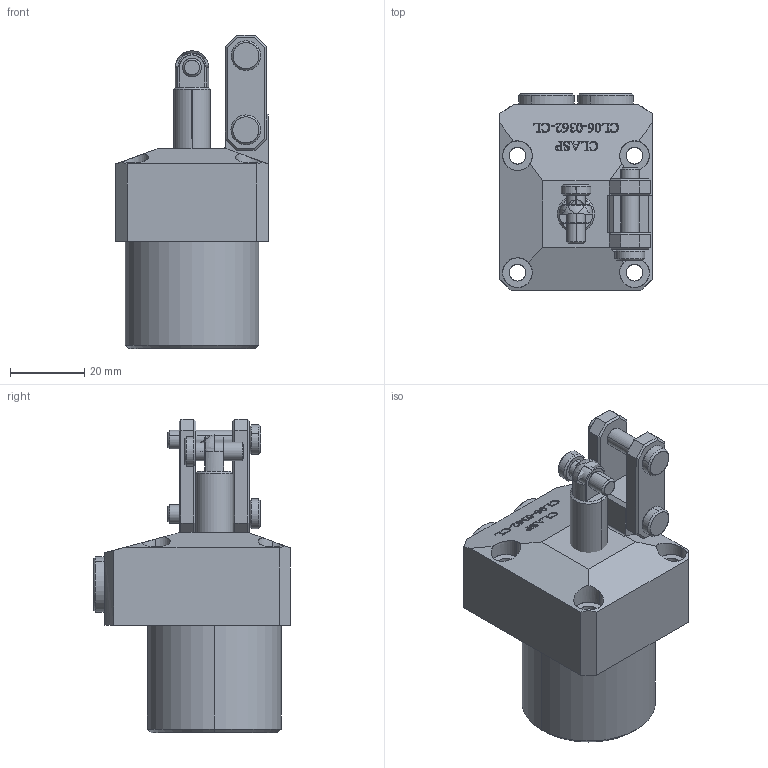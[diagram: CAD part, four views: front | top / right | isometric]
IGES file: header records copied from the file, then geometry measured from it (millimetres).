
Start section: SolidWorks IGES file using analytic representation for surfaces
Global section: file name: D:\karuppas\Clasp\3D model\Link clamp cylinder\CL06-362-CL\CL.06_0362CL.IGS; native system: SolidWorks 2017; preprocessor: SolidWorks 2017; author: pc; date: 220705.224840; units: millimetre
Bounding box: 41 x 53 x 84.51 mm (x, y, z)
Surface area: 19750.9 mm2 (no closed solid volume)
Topology: 0 solids, 0 shells, 530 faces, 7267 edges, 7262 vertices
Faces by surface type: bspline 427, revolution 103
